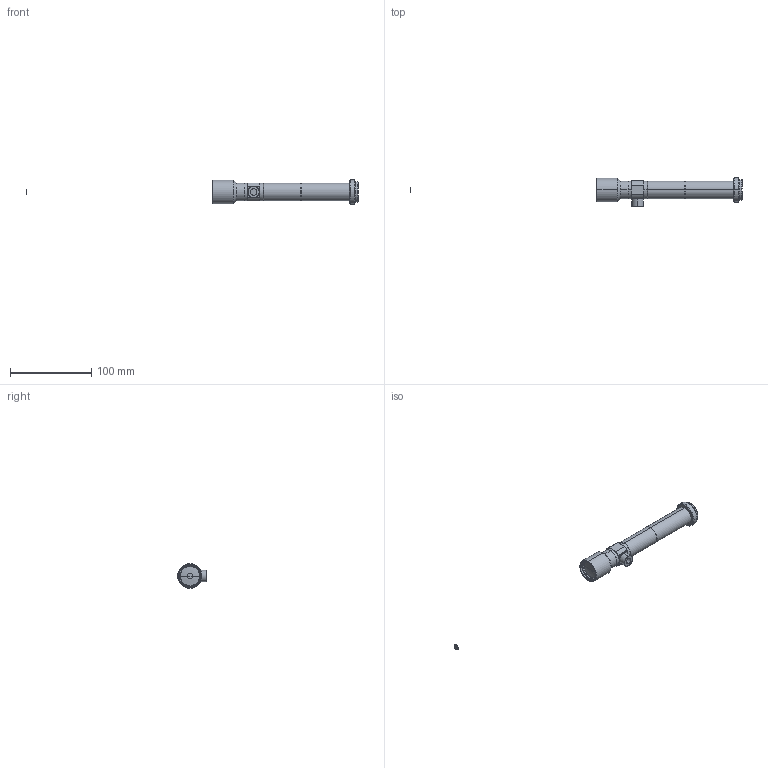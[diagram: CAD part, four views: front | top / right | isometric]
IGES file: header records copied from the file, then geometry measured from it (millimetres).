
Start section: SolidWorks IGES file using analytic representation for surfaces
Bounding box: 407.78 x 35 x 30.01 mm (x, y, z)
Surface area: 22666 mm2 (no closed solid volume)
Topology: 0 solids, 0 shells, 150 faces, 1594 edges, 1592 vertices
Faces by surface type: revolution 118, bspline 32
